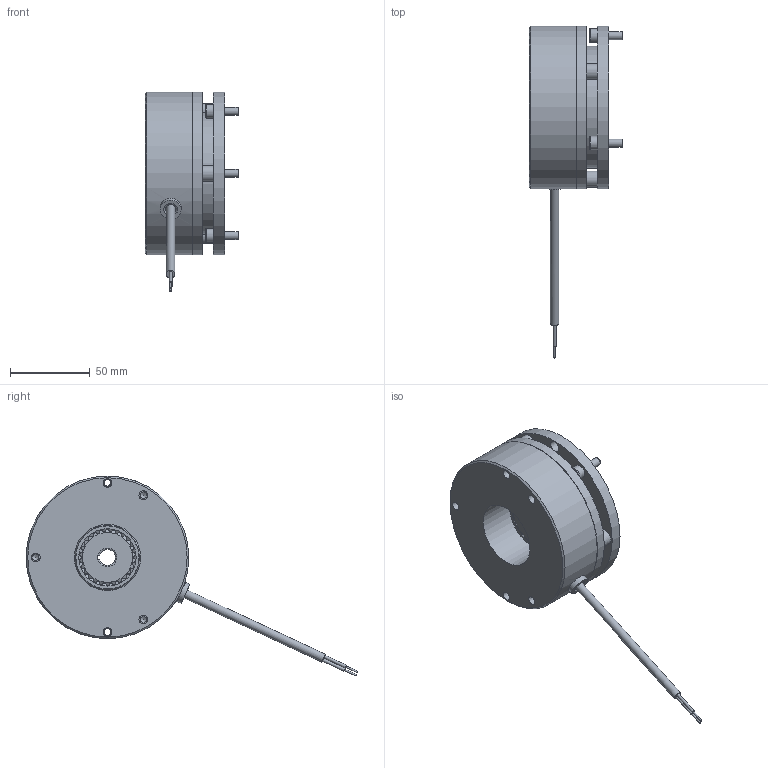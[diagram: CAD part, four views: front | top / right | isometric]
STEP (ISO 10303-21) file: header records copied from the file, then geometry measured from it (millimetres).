
FILE_DESCRIPTION(/* description */ (''),/* implementation_level */ '2;1');
FILE_NAME(/* name */ 'C:\SapWorkDir\Inventor\IP1\ConvertTempPath\5028667_IPT_000.ipt.stp',/* time_stamp */ '2020-09-16T14:52:12+02:00',/* author */ ('STRATE'),/* organization */ (''),/* preprocessor_version */ 'ST-DEVELOPER v17',/* originating_system */ 'Autodesk Inventor 2018',/* authorisation */ '');
FILE_SCHEMA (('AUTOMOTIVE_DESIGN { 1 0 10303 214 3 1 1 }'));
Length unit declared in the file: millimetre
Products named in the file (1): 5028667
Bounding box: 58.8 x 208.15 x 125.44 mm (x, y, z)
Volume: 332024.8 mm3; surface area: 77962.4 mm2
Topology: 2 solids, 2 shells, 441 faces, 1268 edges, 859 vertices
Faces by surface type: cylinder 260, plane 102, cone 59, torus 20
Full cylindrical faces by diameter (mm): 1 x2, 1.85 x2, 4.134 x2, 5 x3, 5.3 x1, 5.4 x5, 5.5 x3, 6.6 x1, 7 x2, 7.1 x2, 8.5 x3, 9.3 x3, 10 x3, 10.6 x6, 13.2 x1, 41.5 x1, 42 x2, 55.5 x2, 56.1 x2, 76.5 x1, 102 x2, 102.1 x1
Entity records: 16493 total; most frequent: CARTESIAN_POINT 4480, ORIENTED_EDGE 2528, DIRECTION 2307, EDGE_CURVE 1264, AXIS2_PLACEMENT_3D 948, VERTEX_POINT 859, EDGE_LOOP 519, CIRCLE 482
